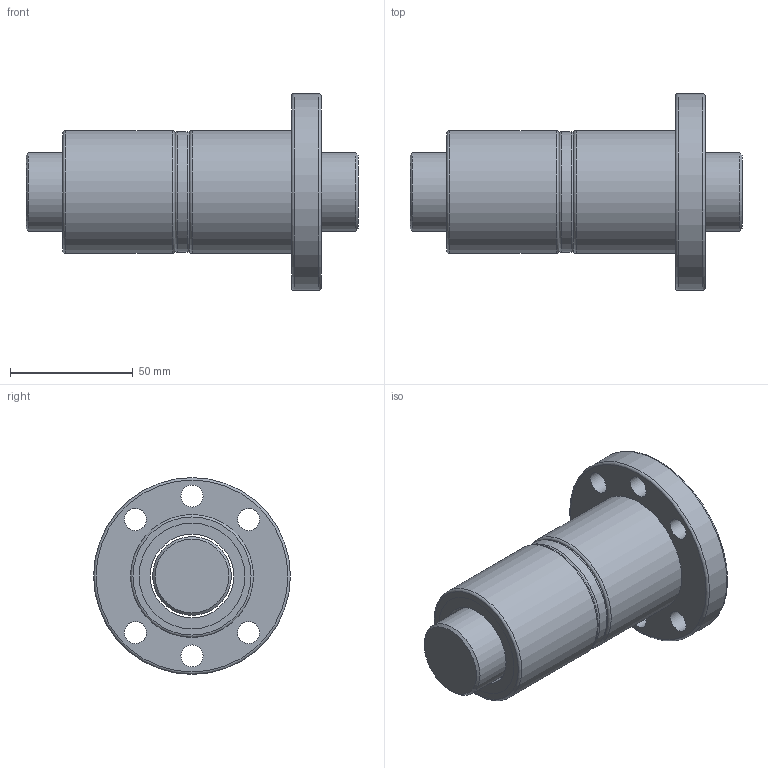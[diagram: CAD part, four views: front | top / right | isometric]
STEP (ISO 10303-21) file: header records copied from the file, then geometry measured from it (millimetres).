
FILE_DESCRIPTION(/* description */ (''),/* implementation_level */ '2;1');
FILE_NAME(/* name */ 'DFU3206',/* time_stamp */ '2007-10-26T10:56:07+08:00',/* author */ (''),/* organization */ (''),/* preprocessor_version */ 'ST-DEVELOPER v9',/* originating_system */ 'EDS PLM SOLUTIONS - UNIGRAPHICS NX 1.0',/* authorisation */ '');
FILE_SCHEMA (('CONFIG_CONTROL_DESIGN'));
Length unit declared in the file: millimetre
Products named in the file (1): FANNDA0400cw
Bounding box: 135 x 80 x 80 mm (x, y, z)
Volume: 250747.1 mm3; surface area: 62323.2 mm2
Topology: 6 solids, 6 shells, 44 faces, 83 edges, 54 vertices
Faces by surface type: cylinder 20, plane 15, torus 7, cone 2
Full cylindrical faces by diameter (mm): 9 x6, 32 x1, 34 x5, 43 x4, 49 x1, 50 x2, 80 x1
Entity records: 1054 total; most frequent: DIRECTION 188, CARTESIAN_POINT 143, EDGE_LOOP 98, ORIENTED_EDGE 98, AXIS2_PLACEMENT_3D 94, FACE_BOUND 81, VERTEX_POINT 49, EDGE_CURVE 49
